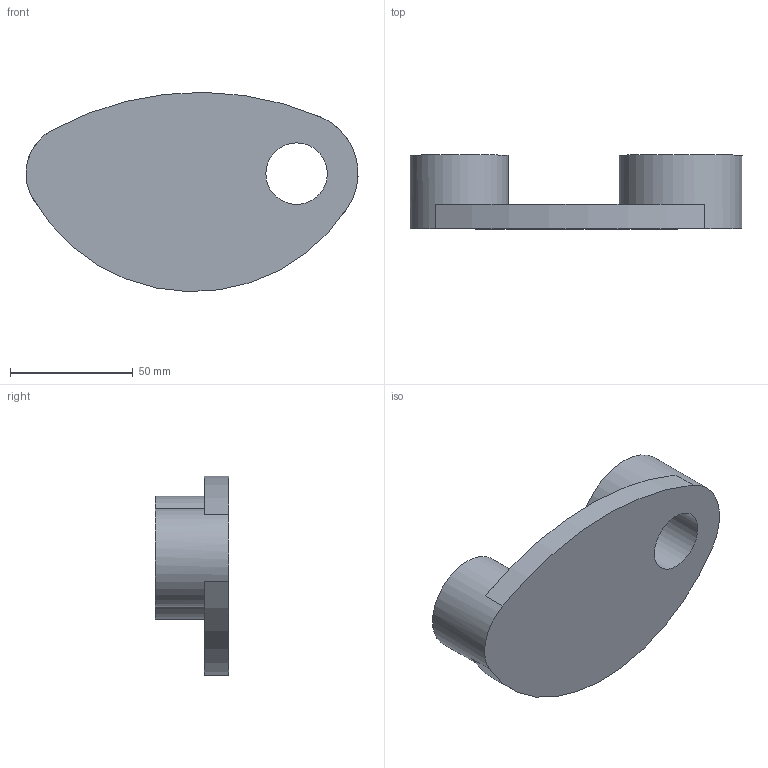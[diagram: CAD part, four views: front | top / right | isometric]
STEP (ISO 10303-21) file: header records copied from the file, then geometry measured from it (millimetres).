
FILE_DESCRIPTION(/* description */ (''),/* implementation_level */ '2;1');
FILE_NAME(/* name */ 'E:\OneDrive\Desktop\HGC_Tangency_04_2021\3D CAD Models\Task_4_HGC_Tangency_v1.stp',/* time_stamp */ '2021-04-10T20:32:03+01:00',/* author */ ('hunte'),/* organization */ (''),/* preprocessor_version */ 'ST-DEVELOPER v18.1',/* originating_system */ 'Autodesk Inventor 2020',/* authorisation */ '');
FILE_SCHEMA (('AUTOMOTIVE_DESIGN { 1 0 10303 214 3 1 1 }'));
Length unit declared in the file: millimetre
Products named in the file (1): Task_4_HGC_Tangency_v1
Bounding box: 134.97 x 30 x 81 mm (x, y, z)
Volume: 133541.9 mm3; surface area: 27231 mm2
Topology: 1 solids, 1 shells, 9 faces, 24 edges, 17 vertices
Faces by surface type: cylinder 5, plane 4
Full cylindrical faces by diameter (mm): 25 x1, 40 x1, 50 x1
Entity records: 344 total; most frequent: DIRECTION 61, CARTESIAN_POINT 51, ORIENTED_EDGE 48, AXIS2_PLACEMENT_3D 27, EDGE_CURVE 24, CIRCLE 17, VERTEX_POINT 17, EDGE_LOOP 11
